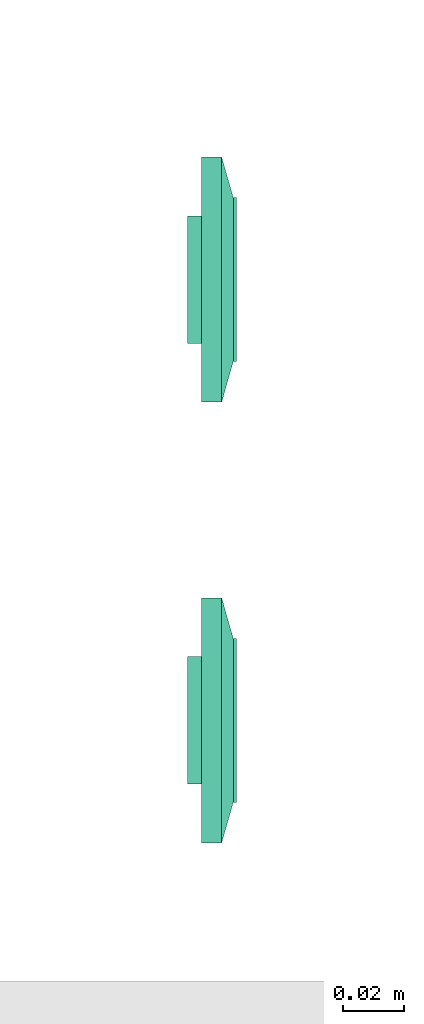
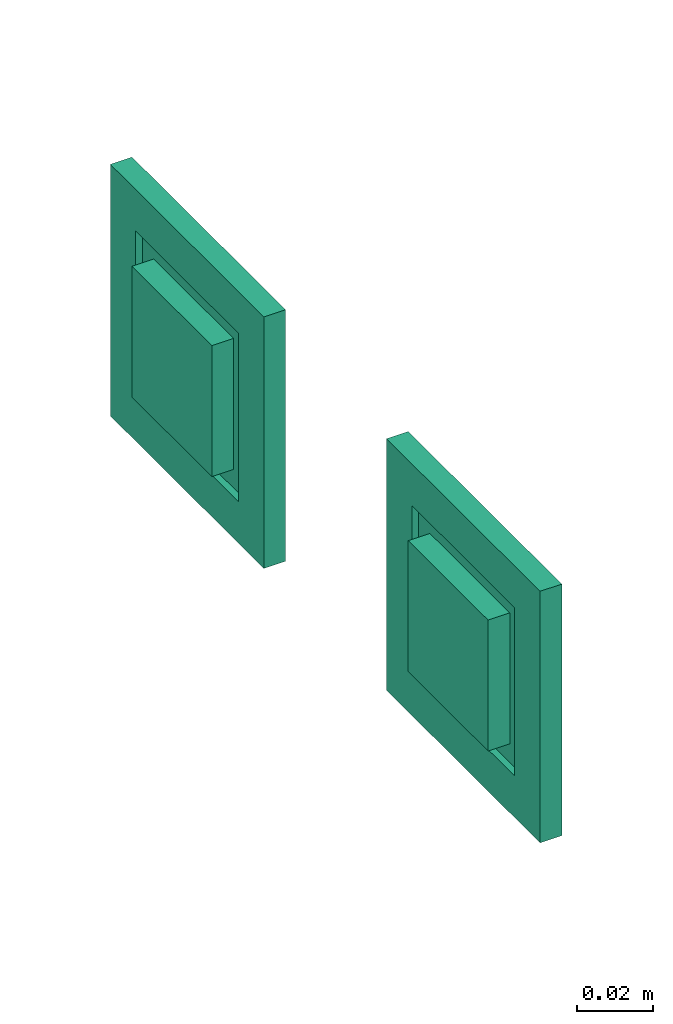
# One storey, part 8 of 146: 2 flow terminals.
"""IFC2X3 building model written with IfcOpenShell, lengths in metres."""

from ifc_helpers import new_model, entity, si_unit, converted_unit, derived_unit, direction, frame, origin, place, context, subcontext, project, spatial, faceted_brep, source, transform, mapped, type_object, type_shapes, element, save


model = new_model("IFC2X3")

# Units and contexts
model_context = context("Model", 3, precision=1e-05, world=origin(), true_north=direction((6.12303176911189e-17, 1.0)))
body_context = subcontext(model_context, "Body", "Model", "MODEL_VIEW")
ifc_project = project(units=[si_unit("LENGTHUNIT", "METRE"), si_unit("AREAUNIT", "SQUARE_METRE"), si_unit("VOLUMEUNIT", "CUBIC_METRE"), converted_unit("PLANEANGLEUNIT", "DEGREE", entity("IfcRatioMeasure", 0.0174532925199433), si_unit("PLANEANGLEUNIT", "RADIAN"), dimensions=[0, 0, 0, 0, 0, 0, 0]), si_unit("MASSUNIT", "GRAM", prefix="KILO"), derived_unit("MASSDENSITYUNIT", [(si_unit("MASSUNIT", "GRAM", prefix="KILO"), 1), (si_unit("LENGTHUNIT", "METRE"), -3)]), si_unit("TIMEUNIT", "SECOND"), si_unit("FREQUENCYUNIT", "HERTZ"), si_unit("THERMODYNAMICTEMPERATUREUNIT", "DEGREE_CELSIUS"), derived_unit("THERMALTRANSMITTANCEUNIT", [(si_unit("MASSUNIT", "GRAM", prefix="KILO"), 1), (si_unit("THERMODYNAMICTEMPERATUREUNIT", "KELVIN"), -1), (si_unit("TIMEUNIT", "SECOND"), -3)]), derived_unit("VOLUMETRICFLOWRATEUNIT", [(si_unit("LENGTHUNIT", "METRE"), 3), (si_unit("TIMEUNIT", "SECOND"), -1)]), si_unit("ELECTRICCURRENTUNIT", "AMPERE"), si_unit("ELECTRICVOLTAGEUNIT", "VOLT"), si_unit("POWERUNIT", "WATT"), si_unit("FORCEUNIT", "NEWTON"), si_unit("ILLUMINANCEUNIT", "LUX"), si_unit("LUMINOUSFLUXUNIT", "LUMEN"), si_unit("LUMINOUSINTENSITYUNIT", "CANDELA"), derived_unit("USERDEFINED", [(si_unit("MASSUNIT", "GRAM", prefix="KILO"), -1), (si_unit("LENGTHUNIT", "METRE"), -2), (si_unit("TIMEUNIT", "SECOND"), 3), (si_unit("LUMINOUSFLUXUNIT", "LUMEN"), 1)]), derived_unit("LINEARVELOCITYUNIT", [(si_unit("LENGTHUNIT", "METRE"), 1), (si_unit("TIMEUNIT", "SECOND"), -1)]), si_unit("PRESSUREUNIT", "PASCAL"), derived_unit("USERDEFINED", [(si_unit("LENGTHUNIT", "METRE"), -2), (si_unit("MASSUNIT", "GRAM", prefix="KILO"), 1), (si_unit("TIMEUNIT", "SECOND"), -2)])], contexts=[model_context])

# Site, building, storey
site_placement = place(None, origin())
site = spatial("IfcSite", under=ifc_project, at=site_placement, Name="Default", CompositionType="ELEMENT")
building_placement = place(site_placement, origin())
building = spatial("IfcBuilding", under=site, at=building_placement, CompositionType="ELEMENT")
storey_placement = place(building_placement, origin())
storey = spatial("IfcBuildingStorey", under=building, at=storey_placement, Name="S01", CompositionType="ELEMENT", Elevation=0.0)

# Flow terminals
electric_appliance_type = type_object("IfcElectricApplianceType", Name="RJ45 IP20", PredefinedType="NOTDEFINED")
shared_shape = source(origin(), body_context, "Body", "Brep", [
    faceted_brep([(0.00200000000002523, 0.0, 0.00799999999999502), (0.00400000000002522, 0.0, 0.00799999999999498), (0.00500000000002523, 0.00199999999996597, 0.00799999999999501), (0.0110000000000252, 0.00199999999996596, 0.00799999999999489), (0.0120000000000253, 0.0, 0.00799999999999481), (0.0140000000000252, 0.0, 0.00799999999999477), (0.0140000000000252, 0.00399999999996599, 0.00799999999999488), (0.00200000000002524, 0.00399999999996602, 0.00799999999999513), (0.00200000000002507, 0.0, 0.0), (0.00200000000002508, 0.00399999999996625, 0.0), (0.0140000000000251, 0.00399999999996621, 0.0), (0.0140000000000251, 0.0, 0.0), (0.0120000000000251, 0.0, 0.0), (0.0110000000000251, 0.00199999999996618, 0.0), (0.00500000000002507, 0.0019999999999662, 0.0), (0.00400000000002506, 0.0, 0.0)], [[[0, 1, 2, 3, 4, 5, 6, 7]], [[8, 9, 10, 11, 12, 13, 14, 15]], [[1, 0, 8, 15]], [[2, 1, 15, 14]], [[3, 2, 14, 13]], [[4, 3, 13, 12]], [[5, 4, 12, 11]], [[6, 5, 11, 10]], [[7, 6, 10, 9]], [[0, 7, 9, 8]]]),
    faceted_brep([(-0.0139999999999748, 0.0, 0.00799999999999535), (-0.0119999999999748, 0.0, 0.00799999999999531), (-0.0109999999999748, 0.00199999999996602, 0.00799999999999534), (-0.00499999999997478, 0.00199999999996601, 0.00799999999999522), (-0.0039999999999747, 0.0, 0.00799999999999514), (-0.00199999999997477, 0.0, 0.0079999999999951), (-0.00199999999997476, 0.00399999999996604, 0.00799999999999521), (-0.0139999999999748, 0.00399999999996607, 0.00799999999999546), (-0.0139999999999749, 0.0, 0.0), (-0.0139999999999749, 0.00399999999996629, 0.0), (-0.00199999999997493, 0.00399999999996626, 0.0), (-0.00199999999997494, 0.0, 0.0), (-0.00399999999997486, 0.0, 0.0), (-0.00499999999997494, 0.00199999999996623, 0.0), (-0.0109999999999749, 0.00199999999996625, 0.0), (-0.0119999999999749, 0.0, 0.0)], [[[0, 1, 2, 3, 4, 5, 6, 7]], [[8, 9, 10, 11, 12, 13, 14, 15]], [[1, 0, 8, 15]], [[2, 1, 15, 14]], [[3, 2, 14, 13]], [[4, 3, 13, 12]], [[5, 4, 12, 11]], [[6, 5, 11, 10]], [[7, 6, 10, 9]], [[0, 7, 9, 8]]]),
    faceted_brep([(0.0140000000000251, 0.00399999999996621, 0.0), (0.00200000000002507, 0.00399999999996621, 0.0), (0.00200000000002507, -0.00350000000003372, 0.0), (0.0140000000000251, -0.00350000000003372, 0.0), (0.0140000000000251, 0.00399999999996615, 0.00199999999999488), (0.00200000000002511, 0.00399999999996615, 0.00199999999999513), (0.00200000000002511, -0.00393859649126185, 0.00199999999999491), (0.0140000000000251, -0.00393859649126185, 0.00199999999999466), (0.0210000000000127, 0.0209999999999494, 0.00199999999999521), (-0.0209999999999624, 0.0209999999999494, 0.00199999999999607), (-0.0209999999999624, -0.0210000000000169, 0.00199999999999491), (0.0210000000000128, -0.0210000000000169, 0.00199999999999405), (-0.0139999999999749, 0.0039999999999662, 0.00199999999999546), (-0.0019999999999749, 0.0039999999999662, 0.00199999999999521), (-0.00199999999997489, -0.0039385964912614, 0.00199999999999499), (-0.0139999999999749, -0.00393859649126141, 0.00199999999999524), (0.0210000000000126, 0.0209999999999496, -0.00460000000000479), (0.0210000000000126, -0.0210000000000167, -0.00460000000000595), (-0.0209999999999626, -0.0210000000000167, -0.00460000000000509), (-0.0209999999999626, 0.0209999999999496, -0.00460000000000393), (-0.00199999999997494, 0.00399999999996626, 0.0), (-0.0139999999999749, 0.00399999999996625, 0.0), (-0.0139999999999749, -0.00350000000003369, 0.0), (-0.00199999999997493, -0.00350000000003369, 0.0)], [[[0, 1, 2, 3]], [[1, 0, 4, 5]], [[2, 1, 5, 6]], [[3, 2, 6, 7]], [[0, 3, 7, 4]], [[5, 4, 7, 6], [8, 9, 10, 11], [12, 13, 14, 15]], [[16, 17, 18, 19]], [[9, 8, 16, 19]], [[10, 9, 19, 18]], [[11, 10, 18, 17]], [[8, 11, 17, 16]], [[20, 21, 22, 23]], [[21, 20, 13, 12]], [[22, 21, 12, 15]], [[23, 22, 15, 14]], [[20, 23, 14, 13]]], outer=[[True], [True], [True], [True], [True], [False, True, False], [True], [True], [True], [True], [True], [True], [True], [True], [True], [True]]),
    faceted_brep([(0.0270000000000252, 0.026999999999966, 0.0113999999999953), (-0.0269999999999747, 0.026999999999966, 0.0113999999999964), (-0.0269999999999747, -0.0270000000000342, 0.0113999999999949), (0.0270000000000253, -0.0270000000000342, 0.0113999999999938), (0.0020000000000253, 0.00399999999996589, 0.0113999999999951), (0.0140000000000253, 0.00399999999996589, 0.0113999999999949), (0.0140000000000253, -0.00600000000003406, 0.0113999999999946), (0.0020000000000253, -0.00600000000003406, 0.0113999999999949), (-0.0139999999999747, 0.00399999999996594, 0.0113999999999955), (-0.00199999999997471, 0.00399999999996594, 0.0113999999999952), (-0.00199999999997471, -0.0060000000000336, 0.0113999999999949), (-0.0139999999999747, -0.00600000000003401, 0.0113999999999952), (0.0270000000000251, 0.0269999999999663, 0.00199999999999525), (0.0270000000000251, -0.0270000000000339, 0.00199999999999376), (-0.0269999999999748, -0.0270000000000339, 0.00199999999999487), (-0.0269999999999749, 0.0269999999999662, 0.00199999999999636), (0.0140000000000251, 0.00399999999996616, 0.00199999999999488), (0.00200000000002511, 0.00399999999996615, 0.00199999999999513), (0.00200000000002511, -0.00393859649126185, 0.00199999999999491), (0.0140000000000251, -0.00393859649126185, 0.00199999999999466), (-0.00199999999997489, 0.0039999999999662, 0.00199999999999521), (-0.0139999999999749, 0.0039999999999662, 0.00199999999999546), (-0.0139999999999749, -0.0039385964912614, 0.00199999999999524), (-0.00199999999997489, -0.0039385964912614, 0.00199999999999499)], [[[0, 1, 2, 3], [4, 5, 6, 7], [8, 9, 10, 11]], [[12, 13, 14, 15], [16, 17, 18, 19], [20, 21, 22, 23]], [[1, 0, 12, 15]], [[2, 1, 15, 14]], [[3, 2, 14, 13]], [[0, 3, 13, 12]], [[4, 17, 16, 5]], [[17, 4, 7, 18]], [[18, 7, 6, 19]], [[5, 16, 19, 6]], [[8, 21, 20, 9]], [[21, 8, 11, 22]], [[22, 11, 10, 23]], [[9, 20, 23, 10]]]),
    faceted_brep([(0.027000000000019, 0.0269999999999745, 0.00659999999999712), (-0.0269999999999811, 0.0269999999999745, 0.00659999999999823), (-0.026999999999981, -0.0270000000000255, 0.00659999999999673), (0.027000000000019, -0.0270000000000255, 0.00659999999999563), (0.040350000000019, 0.0403499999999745, 0.00659999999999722), (0.040350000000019, -0.0403500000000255, 0.00659999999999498), (-0.0403499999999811, -0.0403500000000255, 0.00659999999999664), (-0.0403499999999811, 0.0403499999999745, 0.00659999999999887), (-0.026999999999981, 0.0269999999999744, 0.0103999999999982), (0.027000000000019, 0.0269999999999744, 0.0103999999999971), (-0.026999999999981, -0.0270000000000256, 0.0103999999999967), (0.027000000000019, -0.0270000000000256, 0.0103999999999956)], [[[0, 1, 2, 3], [4, 5, 6, 7]], [[4, 7, 8, 9]], [[7, 6, 10, 8]], [[6, 5, 11, 10]], [[5, 4, 9, 11]], [[0, 9, 8, 1]], [[1, 8, 10, 2]], [[2, 10, 11, 3]], [[9, 0, 3, 11]]], outer=[[False, True], [True], [True], [True], [True], [True], [True], [True], [True]]),
    faceted_brep([(0.040350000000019, 0.0403499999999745, 0.00659999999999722), (-0.0403499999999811, 0.0403499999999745, 0.00659999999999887), (-0.0403499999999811, -0.0403500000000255, 0.00659999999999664), (0.040350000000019, -0.0403500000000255, 0.00659999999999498), (-0.0269999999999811, 0.0269999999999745, 0.00659999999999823), (0.0270000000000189, 0.0269999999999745, 0.00659999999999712), (0.0270000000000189, -0.0270000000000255, 0.00659999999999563), (-0.0269999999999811, -0.0270000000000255, 0.00659999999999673), (0.0403500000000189, 0.0403499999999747, 0.0), (0.0403500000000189, -0.0403500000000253, 0.0), (-0.0403499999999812, -0.0403500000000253, 0.0), (-0.0403499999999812, 0.0403499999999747, 0.0), (0.0270000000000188, 0.0269999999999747, 0.0), (-0.0269999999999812, 0.0269999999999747, 0.0), (-0.0269999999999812, -0.0270000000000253, 0.0), (0.0270000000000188, -0.0270000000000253, 0.0)], [[[0, 1, 2, 3], [4, 5, 6, 7]], [[8, 9, 10, 11], [12, 13, 14, 15]], [[1, 0, 8, 11]], [[2, 1, 11, 10]], [[3, 2, 10, 9]], [[0, 3, 9, 8]], [[12, 5, 4, 13]], [[13, 4, 7, 14]], [[14, 7, 6, 15]], [[5, 12, 15, 6]]]),
])
type_shapes(electric_appliance_type, [shared_shape])
for number, where, z_axis, x_axis in (
    (1, (26.1922872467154, -189.0154508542, 0.320000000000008), (1.0, 0.0, 0.0), (0.0, 1.0, 0.0)),
    (2, (26.1922872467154, -189.160609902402, 0.320000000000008), (1.0, 0.0, 0.0), (0.0, 1.0, 0.0)),
):
    element("IfcFlowTerminal", number, at=place(storey_placement, frame(where, z_axis=z_axis, x_axis=x_axis)), inside=storey, type_object=electric_appliance_type, Name="INT_Prise RJ45:RJ45 IP20", ObjectType="INT_Prise RJ45:RJ45 IP20", context=body_context, shape_type="MappedRepresentation", body=[
        mapped(shared_shape, transform((0.0, 0.0, 0.0), scale=1.0)),
    ])

save(model, "model.ifc")
